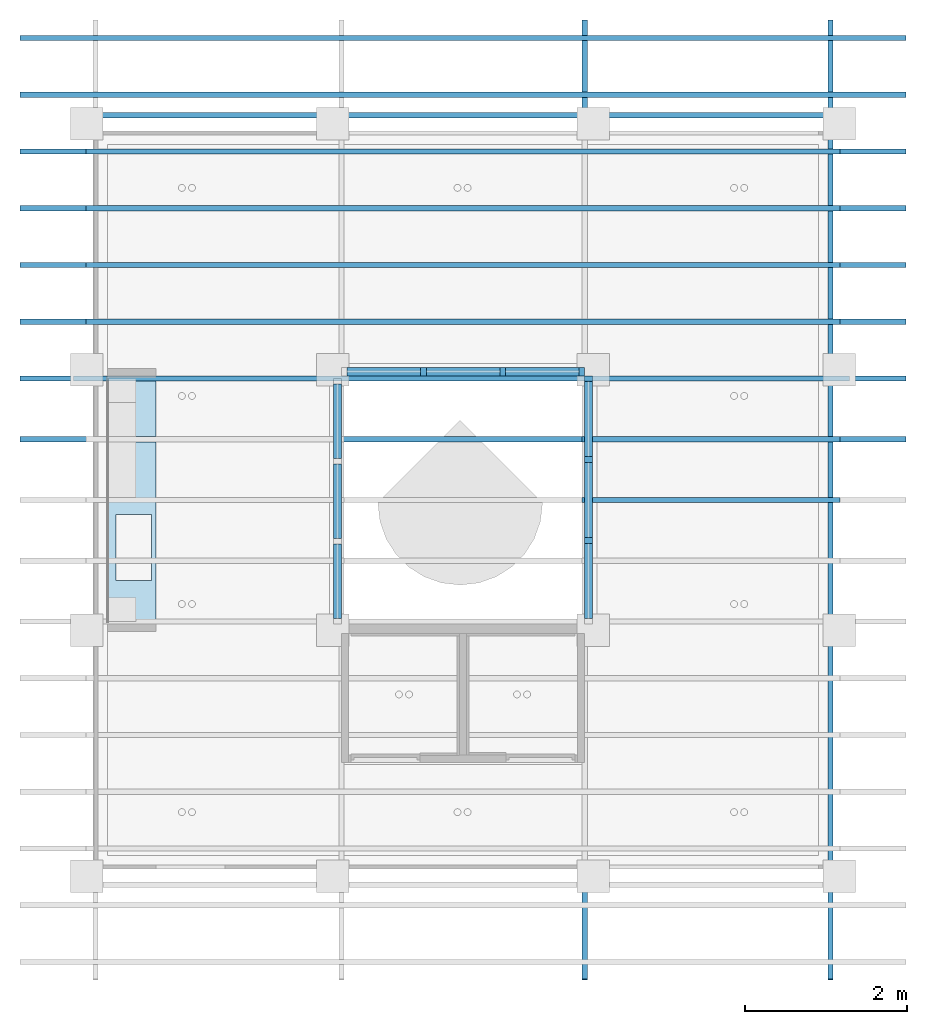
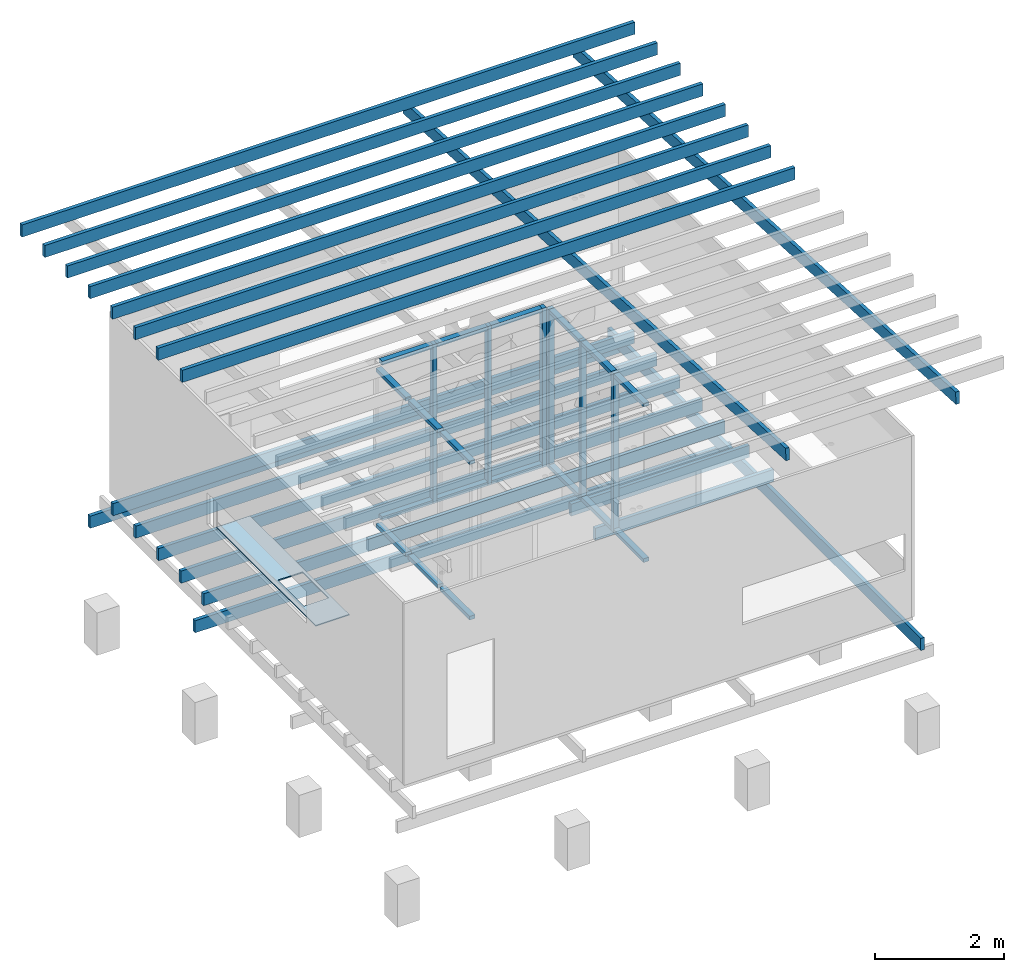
# One storey, part 2 of 5: 24 members, 20 beams, 1 slab, 1 opening, 3 elements without a shape of their own.
"""IFC2X3 building model written with IfcOpenShell, lengths in centimetres."""

from ifc_helpers import new_model, entity, si_unit, converted_unit, derived_unit, direction, frame, frame_2d, origin, origin_2d_with_axis, place, context, subcontext, project, spatial, rectangle, extrude, boolean, source, transform, mapped, material, layer, layer_set, layer_usage, type_object, type_shapes, element, aggregate, save


model = new_model("IFC2X3")

# Units and contexts
model_context = context("Model", 3, precision=0.001, world=origin(), true_north=direction((6.123233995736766e-17, 1.0)))
body_context = subcontext(model_context, "Body", "Model", "MODEL_VIEW")
ifc_project = project(units=[si_unit("LENGTHUNIT", "METRE", prefix="CENTI"), si_unit("AREAUNIT", "SQUARE_METRE"), si_unit("VOLUMEUNIT", "CUBIC_METRE"), converted_unit("PLANEANGLEUNIT", "DEGREE", entity("IfcPlaneAngleMeasure", 0.017453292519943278), si_unit("PLANEANGLEUNIT", "RADIAN"), dimensions=[0, 0, 0, 0, 0, 0, 0]), si_unit("POWERUNIT", "WATT"), derived_unit("USERDEFINED", [(si_unit("MASSUNIT", "GRAM", prefix="KILO"), 1), (si_unit("TIMEUNIT", "SECOND"), -3)]), si_unit("FORCEUNIT", "NEWTON", prefix="KILO"), derived_unit("THERMALTRANSMITTANCEUNIT", [(si_unit("MASSUNIT", "GRAM", prefix="KILO"), 1), (si_unit("TIMEUNIT", "SECOND"), -3), (si_unit("THERMODYNAMICTEMPERATUREUNIT", "KELVIN"), -1)]), derived_unit("USERDEFINED", [(si_unit("MASSUNIT", "GRAM", prefix="KILO"), 1), (si_unit("THERMODYNAMICTEMPERATUREUNIT", "KELVIN"), -1), (si_unit("TIMEUNIT", "SECOND"), -2)]), derived_unit("THERMALRESISTANCEUNIT", [(si_unit("MASSUNIT", "GRAM", prefix="KILO"), -1), (si_unit("TIMEUNIT", "SECOND"), 3), (si_unit("THERMODYNAMICTEMPERATUREUNIT", "KELVIN"), 1)]), derived_unit("USERDEFINED", [(si_unit("MASSUNIT", "GRAM", prefix="KILO"), -1), (si_unit("TIMEUNIT", "SECOND"), 3), (si_unit("LENGTHUNIT", "METRE"), -2), (si_unit("LUMINOUSFLUXUNIT", "LUMEN"), 1)]), si_unit("LUMINOUSFLUXUNIT", "LUMEN")], contexts=[model_context])

# Site, building, storey
site_placement = place(None, origin())
site = spatial("IfcSite", under=ifc_project, at=site_placement, Name="Default", CompositionType="ELEMENT")
building_placement = place(site_placement, origin())
building = spatial("IfcBuilding", under=site, at=building_placement, Name="Workshop Hbaitáculo - Refugio Tierra del Fuego", CompositionType="ELEMENT")
storey_placement = place(building_placement, frame((0.0, 0.0, 100.0)))
storey = spatial("IfcBuildingStorey", under=building, at=storey_placement, Name="NOG_PISO 1", CompositionType="ELEMENT", Elevation=100.0)

# Beams
ifc_material_1 = material(Name="Madera Oscura")
beam_type = type_object("IfcBeamType", Name="Arauco Hilam Viga:Hilam Viga 65x228 mm", PredefinedType="BEAM")
beam_1_placement = place(storey_placement, frame((-46.25109788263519, 9.0, 0.0)))
element("IfcBeam", 1, at=beam_1_placement, inside=storey, type_object=beam_type, material=ifc_material_1, Name="Arauco Hilam Viga:Hilam Viga 65x228 mm", ObjectType="Arauco Hilam Viga:Hilam Viga 65x228 mm", context=body_context, shape_type="SweptSolid", body=[
    extrude(rectangle(XDim=22.8, YDim=6.499999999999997, at=origin_2d_with_axis()), frame((31.251097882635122, 0.0, -11.400000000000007), z_axis=(1.0, 0.0, 0.0), x_axis=(0.0, 0.0, -1.0)), (0.0, 0.0, 1.0), 929.9999999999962),
])
beam_2_placement = place(storey_placement, frame((-46.25109788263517, 79.0, 0.0)))
element("IfcBeam", 2, at=beam_2_placement, inside=storey, type_object=beam_type, material=ifc_material_1, Name="Arauco Hilam Viga:Hilam Viga 65x228 mm", ObjectType="Arauco Hilam Viga:Hilam Viga 65x228 mm", context=body_context, shape_type="SweptSolid", body=[
    extrude(rectangle(XDim=22.8, YDim=6.499999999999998, at=frame_2d((0.0, -6.8833827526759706e-15), x_axis=(1.0, 0.0))), frame((31.251097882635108, 0.0, -11.400000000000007), z_axis=(1.0, 0.0, 0.0), x_axis=(0.0, 0.0, -1.0)), (0.0, 0.0, 1.0), 929.9999999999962),
])
beam_3_placement = place(storey_placement, frame((-46.25109788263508, 149.0, 0.0)))
element("IfcBeam", 3, at=beam_3_placement, inside=storey, type_object=beam_type, material=ifc_material_1, Name="Arauco Hilam Viga:Hilam Viga 65x228 mm", ObjectType="Arauco Hilam Viga:Hilam Viga 65x228 mm", context=body_context, shape_type="SweptSolid", body=[
    extrude(rectangle(XDim=22.8, YDim=6.499999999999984, at=frame_2d((0.0, 1.354472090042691e-14), x_axis=(1.0, 0.0))), frame((31.251097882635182, 0.0, -11.400000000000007), z_axis=(1.0, 0.0, 0.0), x_axis=(0.0, 0.0, -1.0)), (0.0, 0.0, 1.0), 929.9999999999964),
])
beam_4_placement = place(storey_placement, frame((-46.25109788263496, 219.0, 0.0)))
element("IfcBeam", 4, at=beam_4_placement, inside=storey, type_object=beam_type, material=ifc_material_1, Name="Arauco Hilam Viga:Hilam Viga 65x228 mm", ObjectType="Arauco Hilam Viga:Hilam Viga 65x228 mm", context=body_context, shape_type="SweptSolid", body=[
    extrude(rectangle(XDim=22.8, YDim=6.499999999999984, at=frame_2d((0.0, 1.354472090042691e-14), x_axis=(1.0, 0.0))), frame((31.251097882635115, 0.0, -11.400000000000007), z_axis=(1.0, 0.0, 0.0), x_axis=(0.0, 0.0, -1.0)), (0.0, 0.0, 1.0), 929.9999999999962),
])
beam_5_placement = place(storey_placement, frame((-46.25109788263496, 289.0, 0.0)))
element("IfcBeam", 5, at=beam_5_placement, inside=storey, type_object=beam_type, material=ifc_material_1, Name="Arauco Hilam Viga:Hilam Viga 65x228 mm", ObjectType="Arauco Hilam Viga:Hilam Viga 65x228 mm", context=body_context, shape_type="SweptSolid", body=[
    extrude(rectangle(XDim=22.799999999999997, YDim=6.500000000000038, at=frame_2d((0.0, 5.417888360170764e-14), x_axis=(1.0, 0.0))), frame((31.251097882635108, 0.0, -11.400000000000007), z_axis=(1.0, 0.0, 0.0), x_axis=(0.0, 0.0, -1.0)), (0.0, 0.0, 1.0), 929.9999999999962),
])
beam_6_placement = place(storey_placement, frame((-96.13781449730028, 333.74999999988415, -45.60000000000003)))
element("IfcBeam", 6, at=beam_6_placement, inside=storey, type_object=beam_type, material=ifc_material_1, Name="Arauco Hilam Viga:Hilam Viga 65x228 mm", ObjectType="Arauco Hilam Viga:Hilam Viga 65x228 mm", context=body_context, shape_type="SweptSolid", body=[
    extrude(rectangle(XDim=22.8, YDim=6.499999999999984, at=frame_2d((0.0, -2.708944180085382e-14), x_axis=(1.0, 0.0))), frame((65.77628155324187, 0.0, -11.4), z_axis=(1.0, 0.0, 0.0), x_axis=(0.0, 0.0, -1.0)), (0.0, 0.0, 1.0), 956.8615329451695),
])
beam_7_placement = place(storey_placement, frame((903.2500000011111, 318.10615008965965, -22.8), z_axis=(0.0, 0.0, 1.0), x_axis=(0.0, -1.0, 0.0)))
element("IfcBeam", 7, at=beam_7_placement, inside=storey, type_object=beam_type, material=ifc_material_1, Name="Arauco Hilam Viga:Hilam Viga 65x228 mm", ObjectType="Arauco Hilam Viga:Hilam Viga 65x228 mm", context=body_context, shape_type="SweptSolid", body=[
    extrude(rectangle(XDim=22.800000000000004, YDim=6.500000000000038, at=frame_2d((-3.552713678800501e-15, -1.0835776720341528e-13), x_axis=(1.0, 0.0))), frame((-24.56143479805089, 0.0, -11.399999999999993), z_axis=(1.0, 0.0, 0.0), x_axis=(0.0, 0.0, -1.0)), (0.0, 0.0, 1.0), 966.66758488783),
])
beam_8_placement = place(storey_placement, frame((-96.13781449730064, 9.0, -45.60000000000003)))
element("IfcBeam", 8, at=beam_8_placement, inside=storey, type_object=beam_type, material=ifc_material_1, Name="Arauco Hilam Viga:Hilam Viga 65x228 mm", ObjectType="Arauco Hilam Viga:Hilam Viga 65x228 mm", context=body_context, shape_type="SweptSolid", body=[
    extrude(rectangle(XDim=22.8, YDim=6.499999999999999, at=frame_2d((0.0, -8.881784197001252e-16), x_axis=(1.0, 0.0))), frame((65.7762815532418, 0.0, -11.4), z_axis=(1.0, 0.0, 0.0), x_axis=(0.0, 0.0, -1.0)), (0.0, 0.0, 1.0), 956.8615329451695),
])
beam_9_placement = place(storey_placement, frame((903.2500000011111, 318.10615008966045, 452.0), z_axis=(0.0, 0.05244871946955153, 0.9986236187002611), x_axis=(0.0, -0.9986236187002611, 0.05244871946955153)))
element("IfcBeam", 9, at=beam_9_placement, inside=storey, type_object=beam_type, material=ifc_material_1, Name="Arauco Hilam Viga:Hilam Viga 65x228 mm", ObjectType="Arauco Hilam Viga:Hilam Viga 65x228 mm", context=body_context, shape_type="SweptSolid", body=[
    extrude(rectangle(XDim=22.799999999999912, YDim=6.500000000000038, at=origin_2d_with_axis()), frame((-133.1750649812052, 0.0, -11.400000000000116), z_axis=(1.0, 0.0, 0.0), x_axis=(0.0, 0.0, -1.0)), (0.0, 0.0, 1.0), 1184.6305032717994),
])
beam_10_placement = place(storey_placement, frame((-127.75109788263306, 9.0, 491.21)))
element("IfcBeam", 10, at=beam_10_placement, inside=storey, type_object=beam_type, material=ifc_material_1, Name="Arauco Hilam Viga:Hilam Viga 65x228 mm", ObjectType="Arauco Hilam Viga:Hilam Viga 65x228 mm", context=body_context, shape_type="SweptSolid", body=[
    extrude(rectangle(XDim=22.800000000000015, YDim=6.499999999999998, at=frame_2d((0.0, -4.440892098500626e-16), x_axis=(1.0, 0.0))), frame((31.251097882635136, 0.0, -11.400000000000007), z_axis=(1.0, 0.0, 0.0), x_axis=(0.0, 0.0, -1.0)), (0.0, 0.0, 1.0), 1093.0000000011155),
])
beam_11_placement = place(storey_placement, frame((-127.75109788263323, -66.0, 495.13999999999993)))
element("IfcBeam", 11, at=beam_11_placement, inside=storey, type_object=beam_type, material=ifc_material_1, Name="Arauco Hilam Viga:Hilam Viga 65x228 mm", ObjectType="Arauco Hilam Viga:Hilam Viga 65x228 mm", context=body_context, shape_type="SweptSolid", body=[
    extrude(rectangle(XDim=22.800000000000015, YDim=6.5000000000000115, at=origin_2d_with_axis()), frame((31.251097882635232, 0.0, -11.400000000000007), z_axis=(1.0, 0.0, 0.0), x_axis=(0.0, 0.0, -1.0)), (0.0, 0.0, 1.0), 1093.0000000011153),
])
beam_12_placement = place(storey_placement, frame((-127.75109788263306, 79.0, 487.53000000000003)))
element("IfcBeam", 12, at=beam_12_placement, inside=storey, type_object=beam_type, material=ifc_material_1, Name="Arauco Hilam Viga:Hilam Viga 65x228 mm", ObjectType="Arauco Hilam Viga:Hilam Viga 65x228 mm", context=body_context, shape_type="SweptSolid", body=[
    extrude(rectangle(XDim=22.800000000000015, YDim=6.500000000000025, at=frame_2d((0.0, -6.661338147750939e-15), x_axis=(1.0, 0.0))), frame((31.251097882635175, 0.0, -11.400000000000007), z_axis=(1.0, 0.0, 0.0), x_axis=(0.0, 0.0, -1.0)), (0.0, 0.0, 1.0), 1093.0000000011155),
])
beam_13_placement = place(storey_placement, frame((-127.75109788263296, 149.0, 483.85)))
element("IfcBeam", 13, at=beam_13_placement, inside=storey, type_object=beam_type, material=ifc_material_1, Name="Arauco Hilam Viga:Hilam Viga 65x228 mm", ObjectType="Arauco Hilam Viga:Hilam Viga 65x228 mm", context=body_context, shape_type="SweptSolid", body=[
    extrude(rectangle(XDim=22.800000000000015, YDim=6.500000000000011, at=frame_2d((0.0, -1.354472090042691e-14), x_axis=(1.0, 0.0))), frame((31.251097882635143, 0.0, -11.400000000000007), z_axis=(1.0, 0.0, 0.0), x_axis=(0.0, 0.0, -1.0)), (0.0, 0.0, 1.0), 1093.0000000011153),
])
beam_14_placement = place(storey_placement, frame((-127.75109788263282, 219.0, 480.18)))
element("IfcBeam", 14, at=beam_14_placement, inside=storey, type_object=beam_type, material=ifc_material_1, Name="Arauco Hilam Viga:Hilam Viga 65x228 mm", ObjectType="Arauco Hilam Viga:Hilam Viga 65x228 mm", context=body_context, shape_type="SweptSolid", body=[
    extrude(rectangle(XDim=22.800000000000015, YDim=6.500000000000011, at=frame_2d((0.0, 1.354472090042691e-14), x_axis=(1.0, 0.0))), frame((31.251097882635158, 0.0, -11.400000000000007), z_axis=(1.0, 0.0, 0.0), x_axis=(0.0, 0.0, -1.0)), (0.0, 0.0, 1.0), 1093.0000000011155),
])
beam_15_placement = place(storey_placement, frame((-127.75109788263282, 289.0, 476.49999999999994)))
element("IfcBeam", 15, at=beam_15_placement, inside=storey, type_object=beam_type, material=ifc_material_1, Name="Arauco Hilam Viga:Hilam Viga 65x228 mm", ObjectType="Arauco Hilam Viga:Hilam Viga 65x228 mm", context=body_context, shape_type="SweptSolid", body=[
    extrude(rectangle(XDim=22.800000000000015, YDim=6.499999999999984, at=frame_2d((0.0, 2.708944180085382e-14), x_axis=(1.0, 0.0))), frame((31.25109788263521, 0.0, -11.400000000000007), z_axis=(1.0, 0.0, 0.0), x_axis=(0.0, 0.0, -1.0)), (0.0, 0.0, 1.0), 1093.0000000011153),
])
beam_16_placement = place(storey_placement, frame((600.0000000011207, 318.10615008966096, 452.0), z_axis=(0.0, 0.05244871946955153, 0.9986236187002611), x_axis=(0.0, -0.9986236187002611, 0.05244871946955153)))
element("IfcBeam", 16, at=beam_16_placement, inside=storey, type_object=beam_type, material=ifc_material_1, Name="Arauco Hilam Viga:Hilam Viga 65x228 mm", ObjectType="Arauco Hilam Viga:Hilam Viga 65x228 mm", context=body_context, shape_type="SweptSolid", body=[
    extrude(rectangle(XDim=22.799999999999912, YDim=6.500000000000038, at=origin_2d_with_axis()), frame((-133.1750649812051, 0.0, -11.400000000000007), z_axis=(1.0, 0.0, 0.0), x_axis=(0.0, 0.0, -1.0)), (0.0, 0.0, 1.0), 1184.6305032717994),
])
beam_17_placement = place(storey_placement, frame((-127.7510978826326, 359.0, 472.81999999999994)))
element("IfcBeam", 17, at=beam_17_placement, inside=storey, type_object=beam_type, material=ifc_material_1, Name="Arauco Hilam Viga:Hilam Viga 65x228 mm", ObjectType="Arauco Hilam Viga:Hilam Viga 65x228 mm", context=body_context, shape_type="SweptSolid", body=[
    extrude(rectangle(XDim=22.800000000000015, YDim=6.499999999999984, at=frame_2d((0.0, 2.708944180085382e-14), x_axis=(1.0, 0.0))), frame((31.251097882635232, 0.0, -11.400000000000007), z_axis=(1.0, 0.0, 0.0), x_axis=(0.0, 0.0, -1.0)), (0.0, 0.0, 1.0), 1093.0000000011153),
])
beam_18_placement = place(storey_placement, frame((-127.7510978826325, 429.0, 469.15)))
element("IfcBeam", 18, at=beam_18_placement, inside=storey, type_object=beam_type, material=ifc_material_1, Name="Arauco Hilam Viga:Hilam Viga 65x228 mm", ObjectType="Arauco Hilam Viga:Hilam Viga 65x228 mm", context=body_context, shape_type="SweptSolid", body=[
    extrude(rectangle(XDim=22.800000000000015, YDim=6.499999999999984, at=frame_2d((0.0, -2.708944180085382e-14), x_axis=(1.0, 0.0))), frame((31.25109788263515, 0.0, -11.400000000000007), z_axis=(1.0, 0.0, 0.0), x_axis=(0.0, 0.0, -1.0)), (0.0, 0.0, 1.0), 1093.0000000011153),
])
beam_19_placement = place(storey_placement, frame((473.74890211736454, -141.0, 0.0)))
element("IfcBeam", 19, at=beam_19_placement, inside=storey, type_object=beam_type, material=ifc_material_1, Name="Arauco Hilam Viga:Hilam Viga 65x228 mm", ObjectType="Arauco Hilam Viga:Hilam Viga 65x228 mm", context=body_context, shape_type="SweptSolid", body=[
    extrude(rectangle(XDim=22.8, YDim=6.500000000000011, at=origin_2d_with_axis()), frame((123.00109788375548, 0.0, -11.400000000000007), z_axis=(1.0, 0.0, 0.0), x_axis=(0.0, 0.0, -1.0)), (0.0, 0.0, 1.0), 318.24999999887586),
])
beam_20_placement = place(storey_placement, frame((596.7500000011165, -66.0, 0.0)))
element("IfcBeam", 20, at=beam_20_placement, inside=storey, type_object=beam_type, material=ifc_material_1, Name="Arauco Hilam Viga:Hilam Viga 65x228 mm", ObjectType="Arauco Hilam Viga:Hilam Viga 65x228 mm", context=body_context, shape_type="SweptSolid", body=[
    extrude(rectangle(XDim=22.8, YDim=6.499999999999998, at=frame_2d((0.0, -6.8833827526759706e-15), x_axis=(1.0, 0.0))), frame((0.0, 0.0, -11.400000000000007), z_axis=(1.0, 0.0, 0.0), x_axis=(0.0, 0.0, -1.0)), (0.0, 0.0, 1.0), 318.2499999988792),
])

# Curtain wall, members
curtain_wall_type = type_object("IfcCurtainWallType", Name="Muro cortina:Ventanas 1 Perfiles 100x35cm v2", PredefinedType="NOTDEFINED")
curtain_wall_1_placement = place(storey_placement, frame((0.0, 0.0, -100.0)))
curtain_wall_1 = element("IfcCurtainWall", 21, at=curtain_wall_1_placement, inside=storey, type_object=curtain_wall_type, Name="Muro cortina:Ventanas 1 Perfiles 100x35cm v2", ObjectType="Muro cortina:Ventanas 1 Perfiles 100x35cm v2")
ifc_material_2 = material(Name="Aluminio anodizado, antracita")
member_type_1 = type_object("IfcMemberType", Name="Montante rectangular:70 x 100mm", PredefinedType="MULLION", material=ifc_material_2)
shared_shape_1 = source(origin(), body_context, "Body", "SweptSolid", [
    extrude(rectangle(XDim=7.0, YDim=10.0, at=origin_2d_with_axis()), frame((-3.5, 0.0, -91.75000001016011), z_axis=(0.0, 0.0, 1.0), x_axis=(-1.0, 0.0, 0.0)), (0.0, 0.0, 1.0), 91.75000001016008),
])
type_shapes(member_type_1, [shared_shape_1])
member_1_placement = place(curtain_wall_1_placement, frame((295.0, -287.25000000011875, 421.0), z_axis=(0.0, -1.0, 0.0), x_axis=(0.0, 0.0, 1.0)))
member_1 = element("IfcMember", 22, at=member_1_placement, type_object=member_type_1, material=ifc_material_2, Name="Montante rectangular:70 x 100mm", ObjectType="Montante rectangular:70 x 100mm", context=body_context, shape_type="MappedRepresentation", body=[
    mapped(shared_shape_1, transform((0.0, 0.0, 0.0), scale=1.0)),
])
member_2_placement = place(curtain_wall_1_placement, frame((295.0, -89.75000001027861, 421.0), z_axis=(0.0, -1.0, 0.0), x_axis=(0.0, 0.0, 1.0)))
member_2 = element("IfcMember", 23, at=member_2_placement, type_object=member_type_1, material=ifc_material_2, Name="Montante rectangular:70 x 100mm", ObjectType="Montante rectangular:70 x 100mm", context=body_context, shape_type="MappedRepresentation", body=[
    mapped(shared_shape_1, transform((0.0, 0.0, 0.0), scale=1.0)),
])
member_3_placement = place(curtain_wall_1_placement, frame((295.0, -188.49999998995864, 421.0), z_axis=(0.0, -1.0, 0.0), x_axis=(0.0, 0.0, 1.0)))
member_3 = element("IfcMember", 24, at=member_3_placement, type_object=member_type_1, material=ifc_material_2, Name="Montante rectangular:70 x 100mm", ObjectType="Montante rectangular:70 x 100mm", context=body_context, shape_type="MappedRepresentation", body=[
    mapped(shared_shape_1, transform((0.0, 0.0, 0.0), scale=1.0)),
])
member_type_2 = type_object("IfcMemberType", Name="Montante rectangular:70 x 100mm", PredefinedType="MULLION", material=ifc_material_2)
shared_shape_2 = source(origin(), body_context, "Body", "SweptSolid", [
    extrude(rectangle(XDim=7.0, YDim=10.0, at=origin_2d_with_axis()), frame((-3.5, 0.0, -91.75000001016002), z_axis=(0.0, 0.0, 1.0), x_axis=(-1.0, 0.0, 0.0)), (0.0, 0.0, 1.0), 91.75000001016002),
])
type_shapes(member_type_2, [shared_shape_2])
member_4_placement = place(curtain_wall_1_placement, frame((295.0, 2.0, 121.0), z_axis=(0.0, 1.0, 0.0), x_axis=(0.0, 0.0, -1.0)))
member_4 = element("IfcMember", 25, at=member_4_placement, type_object=member_type_2, material=ifc_material_2, Name="Montante rectangular:70 x 100mm", ObjectType="Montante rectangular:70 x 100mm", context=body_context, shape_type="MappedRepresentation", body=[
    mapped(shared_shape_2, transform((0.0, 0.0, 0.0), scale=1.0)),
])
member_5_placement = place(curtain_wall_1_placement, frame((295.0, -96.7500000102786, 121.0), z_axis=(0.0, 1.0, 0.0), x_axis=(0.0, 0.0, -1.0)))
member_5 = element("IfcMember", 26, at=member_5_placement, type_object=member_type_2, material=ifc_material_2, Name="Montante rectangular:70 x 100mm", ObjectType="Montante rectangular:70 x 100mm", context=body_context, shape_type="MappedRepresentation", body=[
    mapped(shared_shape_2, transform((0.0, 0.0, 0.0), scale=1.0)),
])
member_6_placement = place(curtain_wall_1_placement, frame((295.0, -195.4999999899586, 121.0), z_axis=(0.0, 1.0, 0.0), x_axis=(0.0, 0.0, -1.0)))
member_6 = element("IfcMember", 27, at=member_6_placement, type_object=member_type_2, material=ifc_material_2, Name="Montante rectangular:70 x 100mm", ObjectType="Montante rectangular:70 x 100mm", context=body_context, shape_type="MappedRepresentation", body=[
    mapped(shared_shape_2, transform((0.0, 0.0, 0.0), scale=1.0)),
])
aggregate(curtain_wall_1, [member_1, member_2, member_3, member_4, member_5, member_6])

curtain_wall_2_placement = place(storey_placement, frame((0.0, 0.0, -100.0)))
curtain_wall_2 = element("IfcCurtainWall", 28, at=curtain_wall_2_placement, inside=storey, type_object=curtain_wall_type, Name="Muro cortina:Ventanas 1 Perfiles 100x35cm v2", ObjectType="Muro cortina:Ventanas 1 Perfiles 100x35cm v2")
member_type_3 = type_object("IfcMemberType", Name="Montante rectangular:70 x 100mm", PredefinedType="MULLION", material=ifc_material_2)
shared_shape_3 = source(origin(), body_context, "Body", "SweptSolid", [
    extrude(rectangle(XDim=7.0, YDim=10.0, at=origin_2d_with_axis()), frame((-3.5, 0.0, -300.0), z_axis=(0.0, 0.0, 1.0), x_axis=(-1.0, 0.0, 0.0)), (0.0, 0.0, 1.0), 299.9999999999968),
])
type_shapes(member_type_3, [shared_shape_3])
member_7_placement = place(curtain_wall_2_placement, frame((600.0000000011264, 17.249999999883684, 121.0), z_axis=(0.0, 0.0, -1.0), x_axis=(1.0, 0.0, 0.0)))
member_7 = element("IfcMember", 29, at=member_7_placement, type_object=member_type_3, material=ifc_material_2, Name="Montante rectangular:70 x 100mm", ObjectType="Montante rectangular:70 x 100mm", context=body_context, shape_type="MappedRepresentation", body=[
    mapped(shared_shape_3, transform((0.0, 0.0, 0.0), scale=1.0)),
])
member_type_4 = type_object("IfcMemberType", Name="Montante rectangular:70 x 100mm", PredefinedType="MULLION", material=ifc_material_2)
shared_shape_4 = source(origin(), body_context, "Body", "SweptSolid", [
    extrude(rectangle(XDim=7.0, YDim=10.0, at=frame_2d((0.0, -4.440892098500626e-16), x_axis=(1.0, 0.0))), frame((0.0, 0.0, -300.0), z_axis=(0.0, 0.0, 1.0), x_axis=(-1.0, 0.0, 0.0)), (0.0, 0.0, 1.0), 299.9999999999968),
])
type_shapes(member_type_4, [shared_shape_4])
member_8_placement = place(curtain_wall_2_placement, frame((401.16666667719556, 17.249999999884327, 121.0), z_axis=(0.0, 0.0, -1.0), x_axis=(1.0, 0.0, 0.0)))
member_8 = element("IfcMember", 30, at=member_8_placement, type_object=member_type_4, material=ifc_material_2, Name="Montante rectangular:70 x 100mm", ObjectType="Montante rectangular:70 x 100mm", context=body_context, shape_type="MappedRepresentation", body=[
    mapped(shared_shape_4, transform((0.0, 0.0, 0.0), scale=1.0)),
])
member_9_placement = place(curtain_wall_2_placement, frame((498.8333333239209, 17.249999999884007, 121.0), z_axis=(0.0, 0.0, -1.0), x_axis=(1.0, 0.0, 0.0)))
member_9 = element("IfcMember", 31, at=member_9_placement, type_object=member_type_4, material=ifc_material_2, Name="Montante rectangular:70 x 100mm", ObjectType="Montante rectangular:70 x 100mm", context=body_context, shape_type="MappedRepresentation", body=[
    mapped(shared_shape_4, transform((0.0, 0.0, 0.0), scale=1.0)),
])

curtain_wall_3_placement = place(storey_placement, frame((0.0, 0.0, -100.0)))
curtain_wall_3 = element("IfcCurtainWall", 32, at=curtain_wall_3_placement, inside=storey, type_object=curtain_wall_type, Name="Muro cortina:Ventanas 1 Perfiles 100x35cm v2", ObjectType="Muro cortina:Ventanas 1 Perfiles 100x35cm v2")
member_type_5 = type_object("IfcMemberType", Name="Montante rectangular:70 x 100mm", PredefinedType="MULLION", material=ifc_material_2)
shared_shape_5 = source(origin(), body_context, "Body", "SweptSolid", [
    extrude(rectangle(XDim=7.0, YDim=10.0, at=origin_2d_with_axis()), frame((-3.5, 0.0, -92.83333334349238), z_axis=(0.0, 0.0, 1.0), x_axis=(-1.0, 0.0, 0.0)), (0.0, 0.0, 1.0), 92.83333334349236),
])
type_shapes(member_type_5, [shared_shape_5])
member_10_placement = place(curtain_wall_3_placement, frame((605.0000000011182, -287.2500000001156, 421.0), z_axis=(0.0, -1.0, 0.0), x_axis=(0.0, 0.0, 1.0)))
member_10 = element("IfcMember", 33, at=member_10_placement, type_object=member_type_5, material=ifc_material_2, Name="Montante rectangular:70 x 100mm", ObjectType="Montante rectangular:70 x 100mm", context=body_context, shape_type="MappedRepresentation", body=[
    mapped(shared_shape_5, transform((0.0, 0.0, 0.0), scale=1.0)),
])
member_11_placement = place(curtain_wall_3_placement, frame((605.0000000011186, -87.58333334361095, 421.0), z_axis=(0.0, -1.0, 0.0), x_axis=(0.0, 0.0, 1.0)))
member_11 = element("IfcMember", 34, at=member_11_placement, type_object=member_type_5, material=ifc_material_2, Name="Montante rectangular:70 x 100mm", ObjectType="Montante rectangular:70 x 100mm", context=body_context, shape_type="MappedRepresentation", body=[
    mapped(shared_shape_5, transform((0.0, 0.0, 0.0), scale=1.0)),
])
member_12_placement = place(curtain_wall_3_placement, frame((605.0000000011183, -187.41666665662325, 421.0), z_axis=(0.0, -1.0, 0.0), x_axis=(0.0, 0.0, 1.0)))
member_12 = element("IfcMember", 35, at=member_12_placement, type_object=member_type_5, material=ifc_material_2, Name="Montante rectangular:70 x 100mm", ObjectType="Montante rectangular:70 x 100mm", context=body_context, shape_type="MappedRepresentation", body=[
    mapped(shared_shape_5, transform((0.0, 0.0, 0.0), scale=1.0)),
])
member_type_6 = type_object("IfcMemberType", Name="Montante rectangular:70 x 100mm", PredefinedType="MULLION", material=ifc_material_2)
shared_shape_6 = source(origin(), body_context, "Body", "SweptSolid", [
    extrude(rectangle(XDim=7.0, YDim=10.0, at=origin_2d_with_axis()), frame((-3.5, 0.0, -92.83333334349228), z_axis=(0.0, 0.0, 1.0), x_axis=(-1.0, 0.0, 0.0)), (0.0, 0.0, 1.0), 92.83333334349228),
])
type_shapes(member_type_6, [shared_shape_6])
member_13_placement = place(curtain_wall_3_placement, frame((605.0000000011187, 5.249999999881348, 121.0), z_axis=(0.0, 1.0, 0.0), x_axis=(0.0, 0.0, -1.0)))
member_13 = element("IfcMember", 36, at=member_13_placement, type_object=member_type_6, material=ifc_material_2, Name="Montante rectangular:70 x 100mm", ObjectType="Montante rectangular:70 x 100mm", context=body_context, shape_type="MappedRepresentation", body=[
    mapped(shared_shape_6, transform((0.0, 0.0, 0.0), scale=1.0)),
])
member_14_placement = place(curtain_wall_3_placement, frame((605.0000000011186, -94.58333334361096, 121.0), z_axis=(0.0, 1.0, 0.0), x_axis=(0.0, 0.0, -1.0)))
member_14 = element("IfcMember", 37, at=member_14_placement, type_object=member_type_6, material=ifc_material_2, Name="Montante rectangular:70 x 100mm", ObjectType="Montante rectangular:70 x 100mm", context=body_context, shape_type="MappedRepresentation", body=[
    mapped(shared_shape_6, transform((0.0, 0.0, 0.0), scale=1.0)),
])
member_15_placement = place(curtain_wall_3_placement, frame((605.0000000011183, -194.41666665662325, 121.0), z_axis=(0.0, 1.0, 0.0), x_axis=(0.0, 0.0, -1.0)))
member_15 = element("IfcMember", 38, at=member_15_placement, type_object=member_type_6, material=ifc_material_2, Name="Montante rectangular:70 x 100mm", ObjectType="Montante rectangular:70 x 100mm", context=body_context, shape_type="MappedRepresentation", body=[
    mapped(shared_shape_6, transform((0.0, 0.0, 0.0), scale=1.0)),
])
member_type_7 = type_object("IfcMemberType", Name="Montante rectangular:70 x 100mm", PredefinedType="MULLION", material=ifc_material_2)
shared_shape_7 = source(origin(), body_context, "Body", "SweptSolid", [
    extrude(rectangle(XDim=7.0, YDim=10.0, at=origin_2d_with_axis()), frame((-3.5, 0.0, -300.0), z_axis=(0.0, 0.0, 1.0), x_axis=(-1.0, 0.0, 0.0)), (0.0, 0.0, 1.0), 299.9999999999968),
])
type_shapes(member_type_7, [shared_shape_7])
member_16_placement = place(curtain_wall_3_placement, frame((605.0000000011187, 12.249999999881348, 421.0), z_axis=(0.0, 0.0, 1.0), x_axis=(0.0, 1.0, 0.0)))
member_16 = element("IfcMember", 39, at=member_16_placement, type_object=member_type_7, material=ifc_material_2, Name="Montante rectangular:70 x 100mm", ObjectType="Montante rectangular:70 x 100mm", context=body_context, shape_type="MappedRepresentation", body=[
    mapped(shared_shape_7, transform((0.0, 0.0, 0.0), scale=1.0)),
])
member_type_8 = type_object("IfcMemberType", Name="Montante rectangular:70 x 100mm", PredefinedType="MULLION", material=ifc_material_2)
shared_shape_8 = source(origin(), body_context, "Body", "SweptSolid", [
    extrude(rectangle(XDim=7.0, YDim=10.0, at=frame_2d((0.0, 4.440892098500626e-16), x_axis=(1.0, 0.0))), frame((0.0, 0.0, -300.0), z_axis=(0.0, 0.0, 1.0), x_axis=(-1.0, 0.0, 0.0)), (0.0, 0.0, 1.0), 299.9999999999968),
])
type_shapes(member_type_8, [shared_shape_8])
member_17_placement = place(curtain_wall_3_placement, frame((605.0000000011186, -91.08333334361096, 121.0), z_axis=(0.0, 0.0, -1.0), x_axis=(0.0, -1.0, 0.0)))
member_17 = element("IfcMember", 40, at=member_17_placement, type_object=member_type_8, material=ifc_material_2, Name="Montante rectangular:70 x 100mm", ObjectType="Montante rectangular:70 x 100mm", context=body_context, shape_type="MappedRepresentation", body=[
    mapped(shared_shape_8, transform((0.0, 0.0, 0.0), scale=1.0)),
])
member_18_placement = place(curtain_wall_3_placement, frame((605.0000000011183, -190.91666665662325, 121.0), z_axis=(0.0, 0.0, -1.0), x_axis=(0.0, -1.0, 0.0)))
member_18 = element("IfcMember", 41, at=member_18_placement, type_object=member_type_8, material=ifc_material_2, Name="Montante rectangular:70 x 100mm", ObjectType="Montante rectangular:70 x 100mm", context=body_context, shape_type="MappedRepresentation", body=[
    mapped(shared_shape_8, transform((0.0, 0.0, 0.0), scale=1.0)),
])
aggregate(curtain_wall_3, [member_10, member_11, member_12, member_13, member_14, member_15, member_16, member_17, member_18])

# Member
member_type_9 = type_object("IfcMemberType", Name="Montante rectangular:70 x 100mm", PredefinedType="MULLION", material=ifc_material_2)
shared_shape_9 = source(origin(), body_context, "Body", "SweptSolid", [
    extrude(rectangle(XDim=7.0, YDim=10.0, at=origin_2d_with_axis()), frame((-3.5, 0.0, -90.66666667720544), z_axis=(0.0, 0.0, 1.0), x_axis=(-1.0, 0.0, 0.0)), (0.0, 0.0, 1.0), 90.66666667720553),
])
type_shapes(member_type_9, [shared_shape_9])
member_19_placement = place(curtain_wall_2_placement, frame((593.0000000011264, 17.249999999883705, 421.0), z_axis=(1.0, 0.0, 0.0), x_axis=(0.0, 0.0, 1.0)))
member_19 = element("IfcMember", 42, at=member_19_placement, type_object=member_type_9, material=ifc_material_2, Name="Montante rectangular:70 x 100mm", ObjectType="Montante rectangular:70 x 100mm", context=body_context, shape_type="MappedRepresentation", body=[
    mapped(shared_shape_9, transform((0.0, 0.0, 0.0), scale=1.0)),
])

member_20_placement = place(curtain_wall_2_placement, frame((397.66666667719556, 17.249999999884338, 421.0), z_axis=(1.0, 0.0, 0.0), x_axis=(0.0, 0.0, 1.0)))
member_20 = element("IfcMember", 43, at=member_20_placement, type_object=member_type_9, material=ifc_material_2, Name="Montante rectangular:70 x 100mm", ObjectType="Montante rectangular:70 x 100mm", context=body_context, shape_type="MappedRepresentation", body=[
    mapped(shared_shape_9, transform((0.0, 0.0, 0.0), scale=1.0)),
])

member_21_placement = place(curtain_wall_2_placement, frame((495.33333332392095, 17.249999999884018, 421.0), z_axis=(1.0, 0.0, 0.0), x_axis=(0.0, 0.0, 1.0)))
member_21 = element("IfcMember", 44, at=member_21_placement, type_object=member_type_9, material=ifc_material_2, Name="Montante rectangular:70 x 100mm", ObjectType="Montante rectangular:70 x 100mm", context=body_context, shape_type="MappedRepresentation", body=[
    mapped(shared_shape_9, transform((0.0, 0.0, 0.0), scale=1.0)),
])

member_type_10 = type_object("IfcMemberType", Name="Montante rectangular:70 x 100mm", PredefinedType="MULLION", material=ifc_material_2)
shared_shape_10 = source(origin(), body_context, "Body", "SweptSolid", [
    extrude(rectangle(XDim=7.0, YDim=10.0, at=origin_2d_with_axis()), frame((-3.5, 0.0, -90.66666667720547), z_axis=(0.0, 0.0, 1.0), x_axis=(-1.0, 0.0, 0.0)), (0.0, 0.0, 1.0), 90.66666667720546),
])
type_shapes(member_type_10, [shared_shape_10])
member_22_placement = place(curtain_wall_2_placement, frame((307.0, 17.249999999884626, 121.0), z_axis=(-1.0, 0.0, 0.0), x_axis=(0.0, 0.0, -1.0)))
member_22 = element("IfcMember", 45, at=member_22_placement, type_object=member_type_10, material=ifc_material_2, Name="Montante rectangular:70 x 100mm", ObjectType="Montante rectangular:70 x 100mm", context=body_context, shape_type="MappedRepresentation", body=[
    mapped(shared_shape_10, transform((0.0, 0.0, 0.0), scale=1.0)),
])

member_23_placement = place(curtain_wall_2_placement, frame((404.66666667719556, 17.249999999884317, 121.0), z_axis=(-1.0, 0.0, 0.0), x_axis=(0.0, 0.0, -1.0)))
member_23 = element("IfcMember", 46, at=member_23_placement, type_object=member_type_10, material=ifc_material_2, Name="Montante rectangular:70 x 100mm", ObjectType="Montante rectangular:70 x 100mm", context=body_context, shape_type="MappedRepresentation", body=[
    mapped(shared_shape_10, transform((0.0, 0.0, 0.0), scale=1.0)),
])

member_24_placement = place(curtain_wall_2_placement, frame((502.33333332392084, 17.249999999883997, 121.0), z_axis=(-1.0, 0.0, 0.0), x_axis=(0.0, 0.0, -1.0)))
member_24 = element("IfcMember", 47, at=member_24_placement, type_object=member_type_10, material=ifc_material_2, Name="Montante rectangular:70 x 100mm", ObjectType="Montante rectangular:70 x 100mm", context=body_context, shape_type="MappedRepresentation", body=[
    mapped(shared_shape_10, transform((0.0, 0.0, 0.0), scale=1.0)),
])

aggregate(curtain_wall_2, [member_19, member_20, member_21, member_22, member_23, member_24, member_7, member_8, member_9])

# Slab, opening
ifc_material_3 = material(Name="Cubierta cocina")
ifc_layer = layer(ifc_material_3, 2.0)
ifc_layer_set = layer_set([ifc_layer], Name="Suelo:Cubierta Cocina")
ifc_layer_usage = layer_usage(ifc_layer_set, "AXIS3", "POSITIVE", 0.0)
slab_type = type_object("IfcSlabType", Name="Suelo:Cubierta Cocina", PredefinedType="FLOOR", material=ifc_layer_set)
slab_placement = place(storey_placement, origin())
slab = element("IfcSlab", 48, at=slab_placement, inside=storey, type_object=slab_type, material=ifc_layer_usage, Name="Suelo:Cubierta Cocina", ObjectType="Suelo:Cubierta Cocina", PredefinedType="FLOOR", context=body_context, shape_type="CSG", body=[
    boolean("DIFFERENCE", extrude(rectangle(XDim=306.49999999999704, YDim=60.00000000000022, at=origin_2d_with_axis()), frame((41.400000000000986, -141.0, 113.0), z_axis=(0.0, 0.0, -1.0), x_axis=(0.0, 1.0, 0.0)), (0.0, 0.0, 1.0), 2.0000000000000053), extrude(rectangle(XDim=80.99999999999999, YDim=44.0, at=frame_2d((0.0, -7.105427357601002e-15), x_axis=(1.0, 0.0))), frame((43.79999999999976, -199.63133951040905, 111.0), z_axis=(0.0, 0.0, 1.0), x_axis=(0.0, 1.0, 0.0)), (0.0, 0.0, 1.0), 2.0000000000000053)),
])
opening_placement = place(slab_placement, origin())
element("IfcOpeningElement", 49, at=opening_placement, cuts=slab, Name="Suelo:Cubierta Cocina", ObjectType="Opening", context=body_context, shape_type="SweptSolid", body=[
    extrude(rectangle(XDim=80.99999999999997, YDim=44.0, at=frame_2d((43.79999999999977, -199.63133951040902), x_axis=(0.0, 1.0))), frame((0.0, 0.0, 113.0)), (0.0, 0.0, -1.0), 2.0000000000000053),
])

save(model, "model.ifc")
